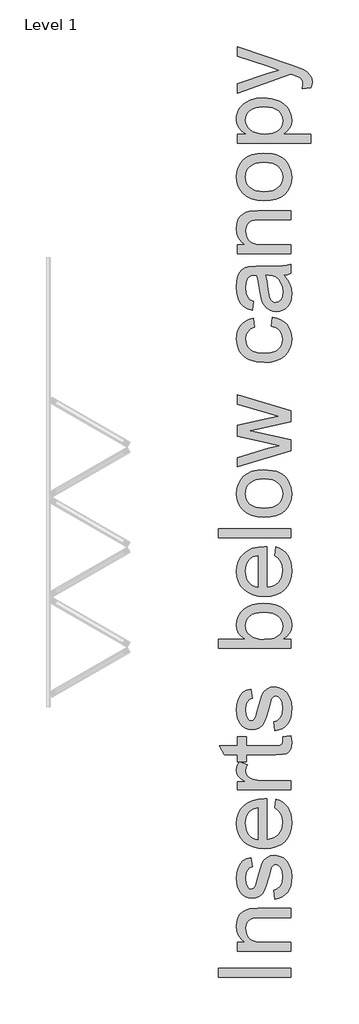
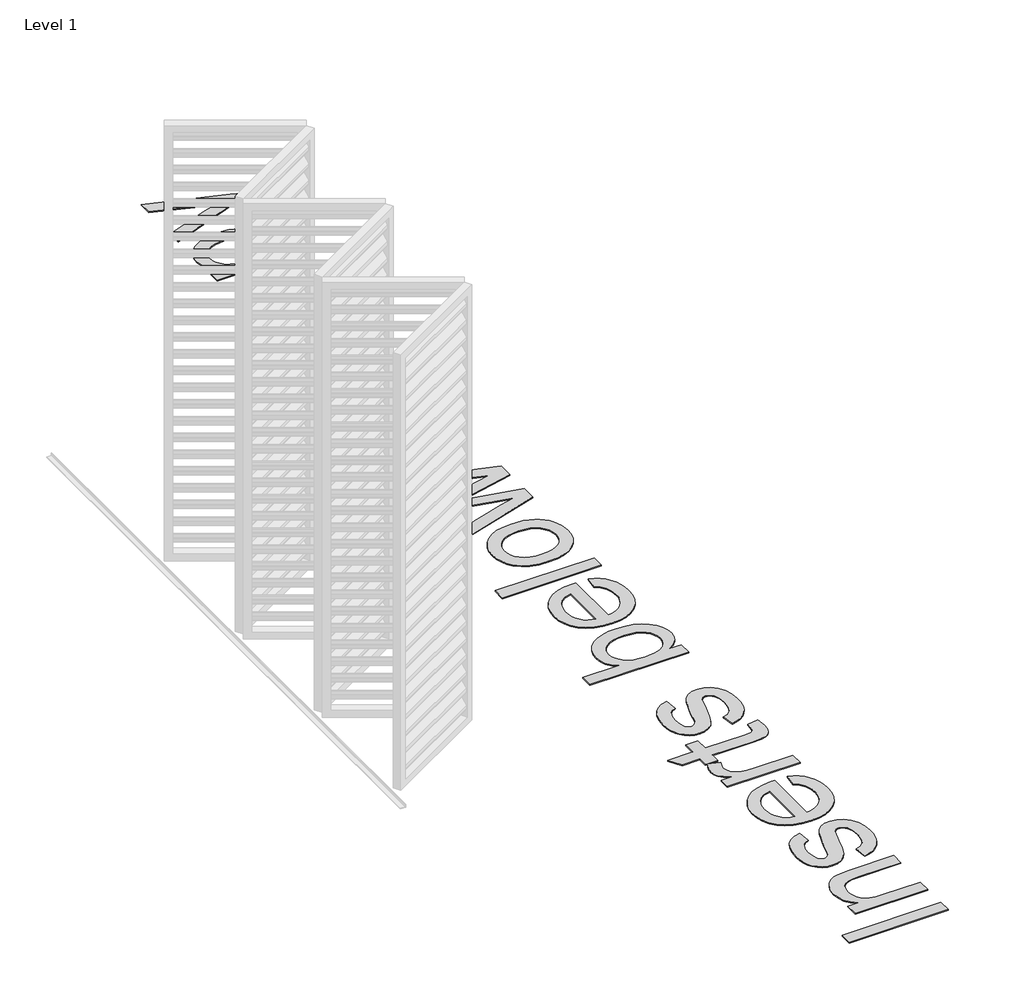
# One storey, part 22 of 80: 1 proxy.
"""IFC4 building model written with IfcOpenShell, lengths in millimetres."""

from ifc_helpers import new_model, si_unit, origin, origin_with_axes, place, context, project, spatial, polyline, outline, extrude, element, save

model = new_model("IFC4")

# Units and contexts
model_context = context("Model", 3, world=origin())
ifc_project = project(units=[si_unit("LENGTHUNIT", "METRE", prefix="MILLI")], contexts=[model_context])

# Site, building, storey
site = spatial("IfcSite", under=ifc_project)
building = spatial("IfcBuilding", under=site)
storey = spatial("IfcBuildingStorey", under=building, Name="Level 1", Elevation=0.0)

# Proxy
placement = place(None, origin())
element("IfcBuildingElementProxy", 1, Name="500mm Arial", ObjectType="500mm Arial", at=placement, inside=storey, context=model_context, shape_type="SweptSolid", body=[
    extrude(outline(polyline([(408909.034918, -43009.1845339), (408406.7533673, -43009.1845339), (408406.7533673, -42946.3993401), (408909.034918, -42946.3993401), (408909.034918, -43009.1845339)])), origin_with_axes(), (0.0, 0.0, 1.0), 5.0),
    extrude(outline(polyline([(408909.034918, -42828.6771016), (408540.1719042, -42828.6771016), (408540.1719042, -42765.8919078), (408591.6753835, -42765.8919078), (408565.709046, -42744.0795711), (408547.1616621, -42717.8833074), (408536.0332318, -42687.3031166), (408532.323755, -42652.3389986), (408535.3127962, -42621.3909258), (408544.2799198, -42593.0486837), (408558.1061515, -42569.4122655), (408575.6725167, -42552.5816642), (408596.9330304, -42541.161994), (408621.8417071, -42533.7583688), (408682.5422363, -42530.4474309), (408909.034918, -42530.4474309), (408909.034918, -42593.2326247), (408691.0035222, -42593.2326247), (408658.5379362, -42595.0413779), (408635.453341, -42600.4676373), (408618.9139796, -42610.4770932), (408606.084095, -42626.0354359), (408597.8527354, -42645.9777058), (408595.1089488, -42669.138943), (408596.6494547, -42688.203661), (408601.2709722, -42705.9118141), (408608.9735015, -42722.2634024), (408619.7570425, -42737.2584258), (408634.8478685, -42749.7855742), (408655.4722529, -42758.7335373), (408681.6301956, -42764.1023152), (408713.3216966, -42765.8919078), (408909.034918, -42765.8919078), (408909.034918, -42828.6771016)])), origin_with_axes(), (0.0, 0.0, 1.0), 5.0),
    extrude(outline(polyline([(408799.1608288, -42467.662237), (408791.3126796, -42404.8770432), (408818.1680652, -42394.9748861), (408837.9110656, -42375.8143656), (408850.0511715, -42347.2728541), (408854.0978734, -42309.2277244), (408850.3883966, -42271.6424473), (408839.2599663, -42245.2162573), (408823.1344722, -42229.5812725), (408804.4338041, -42224.3696109), (408788.4309373, -42229.6119293), (408776.2295178, -42245.3388846), (408758.3259273, -42309.9634884), (408741.7559092, -42367.2611092), (408727.6077808, -42404.5091612), (408712.1720654, -42428.4368193), (408691.7392862, -42445.7732583), (408667.6123587, -42456.3038804), (408641.0941982, -42459.8140878), (408616.7680013, -42456.9936592), (408594.3118712, -42448.5323733), (408574.614856, -42435.1966509), (408558.566004, -42417.752913), (408548.4645775, -42400.416474), (408539.9879632, -42377.8377165), (408534.239807, -42351.7334233), (408532.323755, -42323.8203769), (408535.4047667, -42282.9548186), (408544.6478018, -42247.4235492), (408559.1484838, -42218.851381), (408578.002436, -42198.8631259), (408602.6045445, -42185.6193741), (408634.349695, -42177.2807155), (408642.1978442, -42240.0659093), (408622.4395154, -42247.9907007), (408607.555623, -42263.6716707), (408598.2206174, -42287.2621036), (408595.1089488, -42318.9152836), (408598.0826616, -42354.9677192), (408607.0038, -42379.0026762), (408619.8796698, -42392.5223395), (408634.717577, -42397.0288939), (408644.3744793, -42395.1588271), (408652.9890494, -42389.5486267), (408660.6839145, -42379.953038), (408666.8459379, -42366.1268064), (408680.212317, -42312.0481531), (408709.765504, -42219.8937133), (408723.898304, -42195.5521879), (408743.2427655, -42177.0967745), (408767.8602024, -42165.4625064), (408797.8119282, -42161.584417), (408828.7753294, -42166.1369567), (408857.8993207, -42179.7945758), (408882.899968, -42202.0361081), (408901.4933371, -42232.3403874), (408913.0356347, -42268.944646), (408916.8830673, -42310.0861158), (408915.0283289, -42343.8776099), (408909.4641137, -42373.3924758), (408900.1904217, -42398.6307135), (408887.207253, -42419.592323), (408870.5759211, -42436.7141642), (408850.3577398, -42450.4330969), (408826.552709, -42460.7491212), (408799.1608288, -42467.662237)])), origin_with_axes(), (0.0, 0.0, 1.0), 5.0),
    extrude(outline(polyline([(408799.1608288, -41832.6979133), (408807.008978, -41771.1389928), (408831.6647359, -41780.5774653), (408853.3927663, -41793.3192114), (408872.1930691, -41809.3642314), (408888.0656443, -41828.7125251), (408900.6732669, -41851.1648231), (408909.6787115, -41876.521856), (408915.0819783, -41904.7836239), (408916.8830673, -41935.9501267), (408913.7752308, -41974.9072971), (408904.4517215, -42009.6184962), (408888.9125393, -42040.0837239), (408867.1576843, -42066.3029803), (408839.7926288, -42087.3872171), (408807.4228453, -42102.4473863), (408770.0483338, -42111.4834878), (408727.6690944, -42114.4955217), (408683.852816, -42111.452831), (408645.2328707, -42102.324759), (408611.8092586, -42087.1113056), (408583.5819796, -42065.812471), (408561.1565064, -42039.6621925), (408545.1383111, -42009.8944077), (408535.527394, -41976.5091166), (408532.323755, -41939.5063193), (408535.5197298, -41903.6953063), (408545.1076543, -41871.3101944), (408561.0875285, -41842.3509836), (408583.4593523, -41816.8176739), (408611.6253176, -41795.9748596), (408644.987616, -41781.0871351), (408683.5462476, -41772.1545004), (408727.3012124, -41769.1769555), (408744.2237842, -41769.5448375), (408744.2237842, -42051.7103278), (408769.2780809, -42048.073661), (408791.2207091, -42040.8424805), (408810.0516687, -42030.0167864), (408825.7709598, -42015.5965786), (408838.1639845, -41998.3789348), (408847.016145, -41979.1609327), (408852.3274413, -41957.9425722), (408854.0978734, -41934.7238533), (408850.8175923, -41901.3079054), (408840.9767489, -41873.1649328), (408823.9622067, -41850.2949354), (408799.1608288, -41832.6979133)]), holes=[polyline([(408681.4385904, -42051.7103278), (408681.4385904, -41831.9621494), (408648.2678971, -41840.4540921), (408624.5395084, -41857.1007524), (408611.6636386, -41874.2225936), (408602.4665887, -41893.7050109), (408596.9483588, -41915.5480043), (408595.1089488, -41939.7515739), (408600.9797323, -41982.0733318), (408608.3182117, -42000.4865921), (408618.5920828, -42017.0681066), (408631.3261648, -42030.9824766), (408646.0452767, -42041.3943035), (408662.7494186, -42048.3035872), (408681.4385904, -42051.7103278)])]), origin_with_axes(), (0.0, 0.0, 1.0), 5.0),
    extrude(outline(polyline([(408856.6730474, -41337.5287478), (408910.874328, -41329.6805986), (408916.8830673, -41376.6468667), (408914.2772365, -41406.7825334), (408906.4597441, -41429.253992), (408894.4116087, -41445.1342314), (408879.1138491, -41455.496241), (408852.8409433, -41461.1984119), (408807.8673694, -41463.0991355), (408602.9570981, -41463.0991355), (408602.9570981, -41510.1880309), (408551.6988734, -41510.1880309), (408540.1719042, -41510.1880309), (408540.1719042, -41463.0991355), (408450.5313247, -41463.0991355), (408413.6204979, -41400.3139417), (408540.1719042, -41400.3139417), (408540.1719042, -41337.5287478), (408602.9570981, -41337.5287478), (408602.9570981, -41400.3139417), (408806.0279594, -41400.3139417), (408838.401575, -41397.0030037), (408849.8672305, -41386.2731122), (408854.0978734, -41364.8746428), (408856.6730474, -41337.5287478)])), origin_with_axes(), (0.0, 0.0, 1.0), 5.0),
    extrude(outline(polyline([(408909.034918, -41706.3917617), (408540.1719042, -41706.3917617), (408540.1719042, -41651.4547171), (408594.7410668, -41651.4547171), (408563.1032152, -41631.1598937), (408544.4638608, -41612.4592256), (408535.3587814, -41593.6972438), (408532.323755, -41573.2184794), (408537.1675346, -41541.9485098), (408551.6988734, -41510.1880309), (408607.9848187, -41531.1573046), (408598.3279163, -41553.2302243), (408595.1089488, -41575.3031441), (408598.2052889, -41594.0497974), (408607.4943093, -41610.8037566), (408622.2709028, -41624.3387483), (408641.8299622, -41633.4284993), (408676.9013791, -41641.0620507), (408715.1611066, -41643.6065678), (408909.034918, -41643.6065678), (408909.034918, -41706.3917617)])), origin_with_axes(), (0.0, 0.0, 1.0), 5.0),
    extrude(outline(polyline([(408799.1608288, -41298.2880017), (408791.3126796, -41235.5028078), (408818.1680652, -41225.6006508), (408837.9110656, -41206.4401302), (408850.0511715, -41177.8986188), (408854.0978734, -41139.8534891), (408850.3883966, -41102.2682119), (408839.2599663, -41075.8420219), (408823.1344722, -41060.2070371), (408804.4338041, -41054.9953755), (408788.4309373, -41060.237694), (408776.2295178, -41075.9646493), (408758.3259273, -41140.5892531), (408741.7559092, -41197.8868738), (408727.6077808, -41235.1349258), (408712.1720654, -41259.062584), (408691.7392862, -41276.399023), (408667.6123587, -41286.9296451), (408641.0941982, -41290.4398525), (408616.7680013, -41287.6194238), (408594.3118712, -41279.1581379), (408574.614856, -41265.8224156), (408558.566004, -41248.3786777), (408548.4645775, -41231.0422387), (408539.9879632, -41208.4634812), (408534.239807, -41182.359188), (408532.323755, -41154.4461416), (408535.4047667, -41113.5805833), (408544.6478018, -41078.0493139), (408559.1484838, -41049.4771456), (408578.002436, -41029.4888905), (408602.6045445, -41016.2451387), (408634.349695, -41007.9064802), (408642.1978442, -41070.691674), (408622.4395154, -41078.6164653), (408607.555623, -41094.2974354), (408598.2206174, -41117.8878683), (408595.1089488, -41149.5410483), (408598.0826616, -41185.5934838), (408607.0038, -41209.6284408), (408619.8796698, -41223.1481042), (408634.717577, -41227.6546586), (408644.3744793, -41225.7845918), (408652.9890494, -41220.1743914), (408660.6839145, -41210.5788027), (408666.8459379, -41196.752571), (408680.212317, -41142.6739177), (408709.765504, -41050.5194779), (408723.898304, -41026.1779526), (408743.2427655, -41007.7225392), (408767.8602024, -40996.0882711), (408797.8119282, -40992.2101817), (408828.7753294, -40996.7627214), (408857.8993207, -41010.4203405), (408882.899968, -41032.6618728), (408901.4933371, -41062.9661521), (408913.0356347, -41099.5704106), (408916.8830673, -41140.7118804), (408915.0283289, -41174.5033745), (408909.4641137, -41204.0182404), (408900.1904217, -41229.2564781), (408887.207253, -41250.2180876), (408870.5759211, -41267.3399288), (408850.3577398, -41281.0588616), (408826.552709, -41291.3748859), (408799.1608288, -41298.2880017)])), origin_with_axes(), (0.0, 0.0, 1.0), 5.0),
    extrude(outline(polyline([(408909.034918, -40662.587914), (408909.034918, -40725.3731079), (408406.7533673, -40725.3731079), (408406.7533673, -40662.587914), (408593.0242842, -40662.587914), (408566.4678027, -40641.940537), (408547.4988873, -40618.6260156), (408536.1175381, -40592.6443497), (408532.323755, -40563.9955393), (408535.7419919, -40531.6525806), (408545.9967025, -40501.0877181), (408562.4440933, -40474.0483915), (408584.440371, -40452.2820401), (408611.7709375, -40435.2215126), (408644.2211952, -40422.2996575), (408680.4422433, -40414.1602684), (408719.0851812, -40411.4471386), (408763.6755447, -40414.256071), (408802.9009624, -40422.6828679), (408836.7614344, -40436.7275295), (408865.2569606, -40456.3900557), (408887.8433823, -40479.991985), (408903.9765406, -40505.8548557), (408913.6564356, -40533.9786678), (408916.8830673, -40564.3634213), (408912.7214022, -40593.9549293), (408900.236407, -40620.1895141), (408879.4280816, -40643.0671757), (408850.2964261, -40662.587914), (408909.034918, -40662.587914)]), holes=[polyline([(408722.0282372, -40662.587914), (408774.3901078, -40658.2959574), (408794.2250787, -40652.9310116), (408809.8294067, -40645.4200876), (408829.1968609, -40630.2066342), (408843.0307567, -40612.5253058), (408851.3310943, -40592.3761024), (408854.0978734, -40569.7590239), (408852.059194, -40550.9817137), (408845.9431559, -40533.5226474), (408835.7497589, -40517.3818248), (408821.4790032, -40502.5592461), (408803.1692097, -40490.1662214), (408780.8586996, -40481.3140609), (408754.5474727, -40476.0027646), (408724.2355291, -40474.2323325), (408693.34877, -40475.9299546), (408666.7846242, -40481.022821), (408644.5430919, -40489.5109316), (408626.6241731, -40501.3942865), (408612.8362625, -40515.6842027), (408602.9877549, -40531.3919975), (408597.0786503, -40548.5176708), (408595.1089488, -40567.0612226), (408597.1476282, -40585.8385328), (408603.2636664, -40603.2975991), (408613.4570633, -40619.4384217), (408627.7278191, -40634.2610004), (408645.8536715, -40646.6540251), (408667.6123587, -40655.5061856), (408693.0038806, -40660.8174819), (408722.0282372, -40662.587914)])]), origin_with_axes(), (0.0, 0.0, 1.0), 5.0),
    extrude(outline(polyline([(408799.1608288, -40082.560635), (408807.008978, -40021.0017144), (408831.6647359, -40030.4401869), (408853.3927663, -40043.1819331), (408872.1930691, -40059.226953), (408888.0656443, -40078.5752467), (408900.6732669, -40101.0275447), (408909.6787115, -40126.3845776), (408915.0819783, -40154.6463455), (408916.8830673, -40185.8128483), (408913.7752308, -40224.7700187), (408904.4517215, -40259.4812178), (408888.9125393, -40289.9464455), (408867.1576843, -40316.1657019), (408839.7926288, -40337.2499387), (408807.4228453, -40352.3101079), (408770.0483338, -40361.3462094), (408727.6690944, -40364.3582433), (408683.852816, -40361.3155526), (408645.2328707, -40352.1874806), (408611.8092586, -40336.9740272), (408583.5819796, -40315.6751926), (408561.1565064, -40289.5249141), (408545.1383111, -40259.7571293), (408535.527394, -40226.3718382), (408532.323755, -40189.3690409), (408535.5197298, -40153.5580279), (408545.1076543, -40121.172916), (408561.0875285, -40092.2137052), (408583.4593523, -40066.6803955), (408611.6253176, -40045.8375812), (408644.987616, -40030.9498567), (408683.5462476, -40022.017222), (408727.3012124, -40019.0396771), (408744.2237842, -40019.4075591), (408744.2237842, -40301.5730494), (408769.2780809, -40297.9363826), (408791.2207091, -40290.7052021), (408810.0516687, -40279.879508), (408825.7709598, -40265.4593002), (408838.1639845, -40248.2416564), (408847.016145, -40229.0236543), (408852.3274413, -40207.8052938), (408854.0978734, -40184.586575), (408850.8175923, -40151.1706271), (408840.9767489, -40123.0276544), (408823.9622067, -40100.1576571), (408799.1608288, -40082.560635)]), holes=[polyline([(408681.4385904, -40301.5730494), (408681.4385904, -40081.824871), (408648.2678971, -40090.3168137), (408624.5395084, -40106.963474), (408611.6636386, -40124.0853152), (408602.4665887, -40143.5677325), (408596.9483588, -40165.410726), (408595.1089488, -40189.6142956), (408600.9797323, -40231.9360534), (408608.3182117, -40250.3493137), (408618.5920828, -40266.9308282), (408631.3261648, -40280.8451983), (408646.0452767, -40291.2570251), (408662.7494186, -40298.1663089), (408681.4385904, -40301.5730494)])]), origin_with_axes(), (0.0, 0.0, 1.0), 5.0),
    extrude(outline(polyline([(408909.034918, -39956.2544833), (408406.7533673, -39956.2544833), (408406.7533673, -39893.4692894), (408909.034918, -39893.4692894), (408909.034918, -39956.2544833)])), origin_with_axes(), (0.0, 0.0, 1.0), 5.0),
    extrude(outline(polyline([(408724.6034111, -39814.9877971), (408676.8324012, -39811.5925529), (408635.6679388, -39801.4068201), (408601.1100239, -39784.4305989), (408573.1586564, -39760.6638892), (408555.2933871, -39736.7362311), (408542.5324803, -39710.3253695), (408534.8759363, -39681.4313045), (408532.323755, -39650.054036), (408535.4315914, -39615.4156469), (408544.7551007, -39584.0958599), (408560.2942829, -39556.0946751), (408582.049138, -39531.4120925), (408609.2839019, -39511.2667212), (408641.2628108, -39496.8771702), (408677.9858645, -39488.2434396), (408719.4530632, -39485.3655295), (408782.8820505, -39490.4545637), (408808.9173659, -39496.8158566), (408831.1665624, -39505.7216665), (408850.3845645, -39517.0608626), (408867.3262968, -39530.7223138), (408881.9917593, -39546.70602), (408894.3809519, -39565.0119814), (408911.2575384, -39605.739584), (408916.8830673, -39650.054036), (408913.7867271, -39685.1982628), (408904.4977068, -39716.8092897), (408889.0160061, -39744.8871165), (408867.3416253, -39769.4317434), (408839.8424461, -39789.3625169), (408806.8863507, -39803.5987837), (408768.4733391, -39812.1405438), (408724.6034111, -39814.9877971)]), holes=[polyline([(408724.4807838, -39752.2026033), (408754.9345152, -39750.3861859), (408781.3032236, -39744.9369339), (408803.5869091, -39735.8548471), (408821.7855715, -39723.1399257), (408835.9222036, -39707.6735535), (408846.0197979, -39690.3371144), (408852.0783546, -39671.1306086), (408854.0978734, -39650.054036), (408852.0668582, -39629.0847622), (408845.9738127, -39609.9548985), (408835.8187368, -39592.6644447), (408821.6016305, -39577.2134009), (408803.2228592, -39564.4984795), (408780.5827881, -39555.4163927), (408753.6814172, -39549.9671406), (408722.5187465, -39548.1507233), (408693.0307053, -39549.978637), (408667.3517756, -39555.462378), (408645.4819574, -39564.6019463), (408627.4212507, -39577.3973419), (408613.2846186, -39592.9058673), (408603.1870243, -39610.1848247), (408597.1284677, -39629.2342143), (408595.1089488, -39650.054036), (408597.1208035, -39671.1306086), (408603.1563675, -39690.3371144), (408613.2156408, -39707.6735535), (408627.2986234, -39723.1399257), (408645.4436364, -39735.8548471), (408667.6890008, -39744.9369339), (408694.0347166, -39750.3861859), (408724.4807838, -39752.2026033)])]), origin_with_axes(), (0.0, 0.0, 1.0), 5.0),
    extrude(outline(polyline([(408909.034918, -39353.5411479), (408540.1719042, -39465.7451564), (408540.1719042, -39400.5074159), (408755.3828714, -39336.8638307), (408832.2702084, -39317.8565943), (408758.2033, -39302.2829232), (408540.1719042, -39251.6378352), (408540.1719042, -39176.8351628), (408757.5901634, -39126.4353295), (408824.6673138, -39112.578441), (408753.9113434, -39092.7128133), (408540.1719042, -39028.9466008), (408540.1719042, -38963.4636056), (408909.034918, -39076.5260055), (408909.034918, -39152.4323238), (408692.7203049, -39200.6248652), (408625.2752724, -39214.604381), (408909.034918, -39276.7764382), (408909.034918, -39353.5411479)])), origin_with_axes(), (0.0, 0.0, 1.0), 5.0),
    extrude(outline(polyline([(408775.6163811, -38488.6505772), (408783.4645304, -38425.8653833), (408813.0905273, -38432.6941929), (408839.3059515, -38443.3704349), (408862.1108031, -38457.8941096), (408881.5050821, -38476.2652167), (408896.9829506, -38497.7096713), (408908.038571, -38521.4533884), (408914.6719432, -38547.496368), (408916.8830673, -38575.83861), (408913.7982235, -38611.0518148), (408904.543692, -38642.6245206), (408889.1194729, -38670.5567275), (408867.5255663, -38694.8484355), (408840.168175, -38714.5109617), (408807.4535021, -38728.5556233), (408769.3815477, -38736.9824202), (408725.9523118, -38739.7913526), (408670.0802338, -38734.9935582), (408621.6577661, -38720.6001751), (408600.7076529, -38709.7476563), (408582.5549757, -38696.3812771), (408567.1997345, -38680.5010377), (408554.6419294, -38662.1069379), (408537.9032986, -38621.1034239), (408532.323755, -38576.6970014), (408534.239807, -38548.8414365), (408539.9879632, -38523.645352), (408549.5682235, -38501.1087477), (408562.9805879, -38481.2316236), (408579.9184881, -38464.351205), (408600.0753558, -38450.8047169), (408623.4511909, -38440.5921595), (408650.0459934, -38433.7135326), (408657.8941427, -38496.4987264), (408630.5022624, -38507.8877399), (408610.8665609, -38525.6227177), (408599.0483519, -38548.7226413), (408595.1089488, -38576.206492), (408597.0479935, -38597.5398157), (408602.8651276, -38616.7808104), (408612.560351, -38633.9294763), (408626.1336637, -38648.9858134), (408643.8992984, -38661.2447145), (408666.1714876, -38670.0010724), (408692.9502311, -38675.2548871), (408724.2355291, -38677.0061587), (408755.9921759, -38675.2932082), (408783.0813199, -38670.1543566), (408805.5029611, -38661.5896039), (408823.2570995, -38649.5989501), (408836.7499381, -38634.8415171), (408846.3876799, -38617.9764269), (408852.1703251, -38599.0036794), (408854.0978734, -38577.9232747), (408849.2847507, -38545.4117034), (408834.8453823, -38518.7555871), (408823.9238856, -38507.9758782), (408810.4118865, -38499.3651403), (408775.6163811, -38488.6505772)])), origin_with_axes(), (0.0, 0.0, 1.0), 5.0),
    extrude(outline(polyline([(408861.9460227, -38135.4838618), (408887.6671055, -38165.4815728), (408904.4977068, -38196.368332), (408913.7867271, -38228.8492465), (408916.8830673, -38263.6294235), (408915.0206647, -38291.584623), (408909.4334569, -38316.098593), (408900.1214439, -38337.1713336), (408887.0846257, -38354.8028446), (408871.1507367, -38368.7248789), (408853.1475116, -38378.669189), (408833.0749502, -38384.6357752), (408810.9330527, -38386.6246372), (408784.9054015, -38383.6202676), (408761.2689833, -38374.6071587), (408741.0354736, -38360.704285), (408725.2165478, -38343.0306208), (408713.2603829, -38322.2606165), (408704.6151561, -38299.0687223), (408695.1728515, -38244.7448144), (408685.2400376, -38180.5494062), (408673.5904411, -38135.8517438), (408659.6109253, -38135.4838618), (408631.59058, -38139.8064753), (408613.2577939, -38152.7743156), (408605.3176742, -38165.8494548), (408599.6461601, -38181.7756795), (408595.1089488, -38222.1813853), (408598.1286469, -38259.5827215), (408607.187741, -38285.7023432), (408623.9417002, -38303.5139631), (408650.0459934, -38315.9912941), (408642.1978442, -38378.776488), (408607.8621913, -38367.8779839), (408580.8841783, -38351.614534), (408560.2521298, -38328.4686251), (408544.9543701, -38296.922744), (408535.4814088, -38258.3411198), (408532.323755, -38214.0879815), (408535.1135268, -38171.6435963), (408543.4828422, -38137.9977221), (408556.0674721, -38112.6291929), (408571.5031875, -38095.0168424), (408590.587066, -38083.336589), (408614.1161852, -38075.7643513), (408669.0532299, -38072.698668), (408747.1668402, -38072.698668), (408856.2438517, -38069.5103574), (408883.2065363, -38064.7892051), (408909.034918, -38057.0023695), (408909.034918, -38119.7875634), (408887.207253, -38129.8430046), (408861.9460227, -38135.4838618)]), holes=[polyline([(408736.375635, -38135.4838618), (408746.829615, -38177.6676639), (408755.6281261, -38236.7740378), (408765.8061946, -38290.7913775), (408772.7652957, -38304.8475353), (408782.3608844, -38315.2555301), (408793.8571967, -38321.693465), (408806.5184687, -38323.8394434), (408825.18848, -38319.1642763), (408840.4862396, -38305.1387753), (408850.694965, -38282.0695085), (408854.0978734, -38250.2630443), (408850.3424114, -38216.5405281), (408839.0760253, -38186.7420865), (408822.4753503, -38162.5845021), (408802.7170214, -38145.7845577), (408782.3608844, -38138.3349473), (408754.1565981, -38135.8517438), (408736.375635, -38135.4838618)])]), origin_with_axes(), (0.0, 0.0, 1.0), 5.0),
    extrude(outline(polyline([(408909.034918, -37986.3690264), (408540.1719042, -37986.3690264), (408540.1719042, -37923.5838326), (408591.6753835, -37923.5838326), (408565.709046, -37901.771496), (408547.1616621, -37875.5752322), (408536.0332318, -37844.9950414), (408532.323755, -37810.0309234), (408535.3127962, -37779.0828506), (408544.2799198, -37750.7406085), (408558.1061515, -37727.1041903), (408575.6725167, -37710.2735891), (408596.9330304, -37698.8539188), (408621.8417071, -37691.4502936), (408682.5422363, -37688.1393557), (408909.034918, -37688.1393557), (408909.034918, -37750.9245495), (408691.0035222, -37750.9245495), (408658.5379362, -37752.7333027), (408635.453341, -37758.1595621), (408618.9139796, -37768.1690181), (408606.084095, -37783.7273608), (408597.8527354, -37803.6696306), (408595.1089488, -37826.8308679), (408596.6494547, -37845.8955858), (408601.2709722, -37863.603739), (408608.9735015, -37879.9553272), (408619.7570425, -37894.9503506), (408634.8478685, -37907.477499), (408655.4722529, -37916.4254621), (408681.6301956, -37921.79424), (408713.3216966, -37923.5838326), (408909.034918, -37923.5838326), (408909.034918, -37986.3690264)])), origin_with_axes(), (0.0, 0.0, 1.0), 5.0),
    extrude(outline(polyline([(408724.6034111, -37617.5060126), (408676.8324012, -37614.1107684), (408635.6679388, -37603.9250356), (408601.1100239, -37586.9488144), (408573.1586564, -37563.1821047), (408555.2933871, -37539.2544466), (408542.5324803, -37512.843585), (408534.8759363, -37483.9495199), (408532.323755, -37452.5722514), (408535.4315914, -37417.9338623), (408544.7551007, -37386.6140754), (408560.2942829, -37358.6128906), (408582.049138, -37333.930308), (408609.2839019, -37313.7849367), (408641.2628108, -37299.3953857), (408677.9858645, -37290.7616551), (408719.4530632, -37287.8837449), (408782.8820505, -37292.9727792), (408808.9173659, -37299.334072), (408831.1665624, -37308.239882), (408850.3845645, -37319.5790781), (408867.3262968, -37333.2405293), (408881.9917593, -37349.2242355), (408894.3809519, -37367.5301969), (408911.2575384, -37408.2577994), (408916.8830673, -37452.5722514), (408913.7867271, -37487.7164783), (408904.4977068, -37519.3275051), (408889.0160061, -37547.405332), (408867.3416253, -37571.9499589), (408839.8424461, -37591.8807324), (408806.8863507, -37606.1169992), (408768.473339, -37614.6587593), (408724.6034111, -37617.5060126)]), holes=[polyline([(408724.4807838, -37554.7208188), (408754.9345152, -37552.9044014), (408781.3032236, -37547.4551494), (408803.5869091, -37538.3730626), (408821.7855715, -37525.6581411), (408835.9222036, -37510.1917689), (408846.0197979, -37492.8553299), (408852.0783546, -37473.6488241), (408854.0978734, -37452.5722514), (408852.0668582, -37431.6029777), (408845.9738127, -37412.473114), (408835.8187368, -37395.1826602), (408821.6016305, -37379.7316164), (408803.2228592, -37367.0166949), (408780.5827881, -37357.9346082), (408753.6814172, -37352.4853561), (408722.5187465, -37350.6689388), (408693.0307053, -37352.4968524), (408667.3517756, -37357.9805934), (408645.4819574, -37367.1201617), (408627.4212507, -37379.9155574), (408613.2846186, -37395.4240828), (408603.1870243, -37412.7030402), (408597.1284677, -37431.7524298), (408595.1089488, -37452.5722514), (408597.1208035, -37473.6488241), (408603.1563675, -37492.8553299), (408613.2156408, -37510.1917689), (408627.2986234, -37525.6581411), (408645.4436364, -37538.3730626), (408667.6890008, -37547.4551494), (408694.0347166, -37552.9044014), (408724.4807838, -37554.7208188)])]), origin_with_axes(), (0.0, 0.0, 1.0), 5.0),
    extrude(outline(polyline([(409050.3016042, -37217.2504019), (408540.1719042, -37217.2504019), (408540.1719042, -37154.465208), (408601.7308247, -37154.465208), (408571.3652317, -37133.9864436), (408549.6755224, -37111.0551326), (408536.6616968, -37084.3223743), (408532.323755, -37052.439268), (408533.8412682, -37030.5426251), (408538.3938079, -37009.9795544), (408545.9813741, -36990.750056), (408556.6039667, -36972.8541297), (408569.9856742, -36956.6826504), (408585.8505853, -36942.6264925), (408625.0300178, -36920.8601411), (408671.2911787, -36907.7083598), (408721.7829825, -36903.3244326), (408775.4784254, -36908.2755112), (408823.5023542, -36923.1287467), (408844.7781962, -36934.1498782), (408863.4175506, -36947.4089584), (408879.4204174, -36962.9059874), (408892.7867966, -36980.6409653), (408910.8589996, -37019.3452169), (408916.8830673, -37060.0421626), (408912.8516937, -37088.9055708), (408900.7575731, -37114.6726389), (408882.5014291, -37136.7302302), (408859.9839854, -37154.465208), (409050.3016042, -37154.465208), (409050.3016042, -37217.2504019)]), holes=[polyline([(408727.5464671, -37154.465208), (408757.8047612, -37152.7675859), (408783.8324123, -37147.6747195), (408805.6294206, -37139.1866089), (408823.1957858, -37127.303254), (408836.7154492, -37112.9980094), (408846.3723515, -37097.2442293), (408852.166493, -37080.041914), (408854.0978734, -37061.3910632), (408852.0975151, -37042.4719652), (408846.09644, -37024.9554173), (408836.0946483, -37008.8414195), (408822.0921398, -36994.1299718), (408803.8896453, -36981.8710707), (408781.2878952, -36973.1147128), (408754.2868896, -36967.8608981), (408722.8866285, -36966.1096265), (408692.8889175, -36967.8187449), (408666.9072515, -36972.9461002), (408644.9416308, -36981.4916924), (408626.9920551, -36993.4555215), (408613.0431961, -37007.7952551), (408603.0797254, -37023.4685609), (408597.101643, -37040.475439), (408595.1089488, -37058.8158893), (408597.2281024, -37077.098858), (408603.5855631, -37094.3011734), (408614.181331, -37110.4228354), (408629.015406, -37125.4638441), (408647.8885188, -37138.1519408), (408670.6013999, -37147.214867), (408697.1540493, -37152.6526228), (408727.5464671, -37154.465208)])]), origin_with_axes(), (0.0, 0.0, 1.0), 5.0),
    extrude(outline(polyline([(409050.3016042, -36832.6910896), (408989.8463296, -36840.5392388), (408995.3645596, -36808.6561325), (408993.6324485, -36791.8868449), (408988.4361153, -36778.8576909), (408980.143442, -36768.7102792), (408969.1223106, -36760.5862185), (408922.8918065, -36743.4183921), (408907.6860174, -36738.5132988), (408540.1719042, -36871.9318357), (408540.1719042, -36805.7130766), (408744.9595482, -36734.9571062), (408826.8746058, -36710.3090125), (408754.5244801, -36685.6609188), (408540.1719042, -36612.9429111), (408540.1719042, -36547.2146613), (408917.8640859, -36675.6054776), (408999.7791435, -36708.9601119), (409025.929422, -36726.0359678), (409044.0476103, -36745.3804294), (409054.6242176, -36767.8518879), (409058.1497534, -36794.3087347), (409056.1877161, -36812.4882367), (409050.3016042, -36832.6910896)])), origin_with_axes(), (0.0, 0.0, 1.0), 5.0),
])

save(model, "model.ifc")
